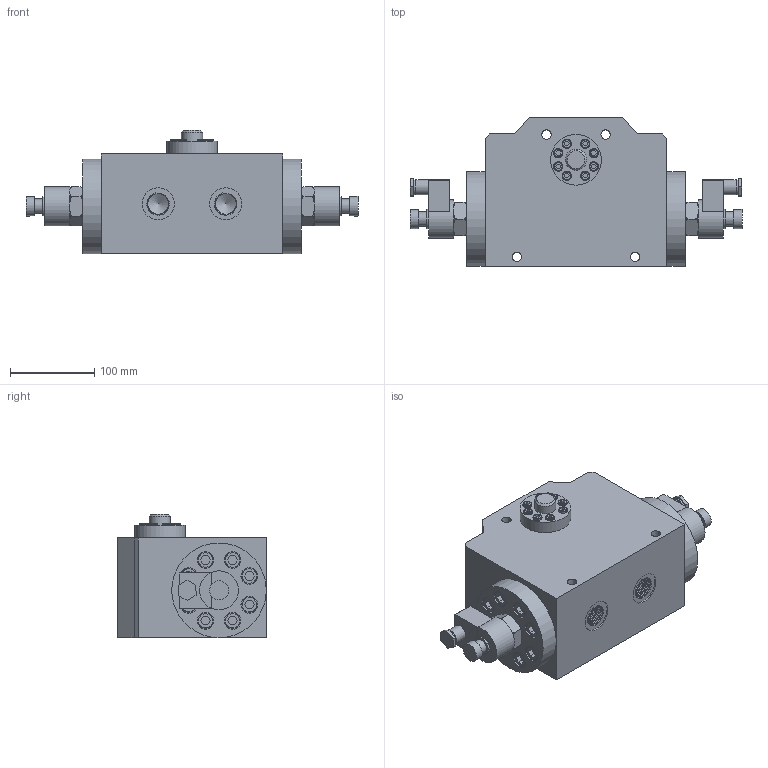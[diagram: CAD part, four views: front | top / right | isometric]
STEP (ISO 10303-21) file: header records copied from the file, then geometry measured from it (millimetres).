
FILE_DESCRIPTION(/* description */ (''),/* implementation_level */ '2;1');
FILE_NAME(/* name */ '数字9.prt.stp',/* time_stamp */ '2023-05-05T14:04:15+08:00',/* author */ (''),/* organization */ (''),/* preprocessor_version */ 'ST-DEVELOPER v16.7',/* originating_system */ 'SIEMENS PLM Software NX 12.0',/* authorisation */ '');
FILE_SCHEMA (('AUTOMOTIVE_DESIGN { 1 0 10303 214 3 1 1 1 }'));
Length unit declared in the file: millimetre
Products named in the file (1): 数字9
Bounding box: 393.03 x 176 x 146 mm (x, y, z)
Volume: 4887505.8 mm3; surface area: 424327.4 mm2
Topology: 51 solids, 51 shells, 813 faces, 1937 edges, 1277 vertices
Faces by surface type: plane 474, cylinder 206, torus 72, cone 52, bspline 9
Full cylindrical faces by diameter (mm): 5 x8, 6 x8, 7 x8, 10 x8, 10.2 x16, 11 x12, 12 x16, 14 x16, 16 x2, 16.666 x2, 18 x20, 20 x16, 22.666 x4, 25.101 x2, 38 x2, 46.188 x2, 47 x1, 60 x1, 112 x2
Entity records: 36459 total; most frequent: CARTESIAN_POINT 18501, DIRECTION 3607, ORIENTED_EDGE 3158, EDGE_CURVE 1579, AXIS2_PLACEMENT_3D 1355, EDGE_LOOP 1216, VERTEX_POINT 1192, LINE 897
